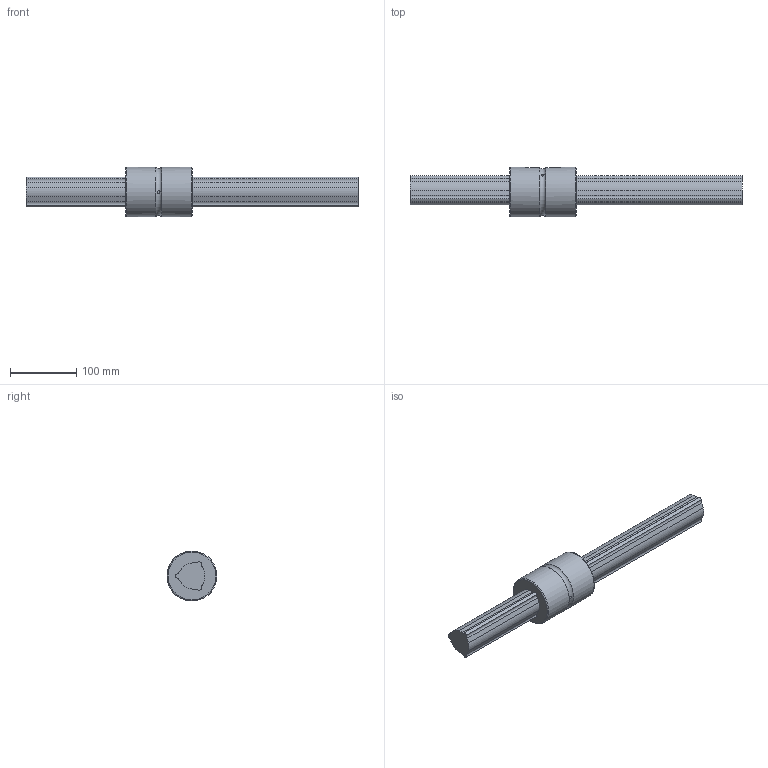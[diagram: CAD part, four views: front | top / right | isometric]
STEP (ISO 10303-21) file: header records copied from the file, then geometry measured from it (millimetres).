
FILE_DESCRIPTION(/* description */ ('STEP AP214'),/* implementation_level */ '2;1');
FILE_NAME(/* name */ 'LBS50+500L(1001500)',/* time_stamp */ '2024-09-04T12:49:57+02:00',/* author */ ('License CC BY-ND 4.0'),/* organization */ ('CADENAS'),/* preprocessor_version */ 'ST-DEVELOPER v19.3',/* originating_system */ 'PARTsolutions',/* authorisation */ ' ');
FILE_SCHEMA (('AUTOMOTIVE_DESIGN {1 0 10303 214 3 1 1}'));
Length unit declared in the file: millimetre
Products named in the file (3): LBS50+500L(1001500); LBS50 Nut; LBS501500 Spline Shaft
Assembly tree (2 placements, depth 2):
  LBS50+500L(1001500)
    LBS50 Nut
    LBS501500 Spline Shaft
Bounding box: 500 x 75 x 75 mm (x, y, z)
Volume: 968723.2 mm3; surface area: 119450.1 mm2
Topology: 2 solids, 2 shells, 56 faces, 148 edges, 99 vertices
Faces by surface type: cylinder 31, plane 22, torus 3
Full cylindrical faces by diameter (mm): 4 x3, 75 x2
Entity records: 1804 total; most frequent: CARTESIAN_POINT 349, DIRECTION 306, ORIENTED_EDGE 272, EDGE_CURVE 136, AXIS2_PLACEMENT_3D 118, VERTEX_POINT 94, LINE 70, VECTOR 70
